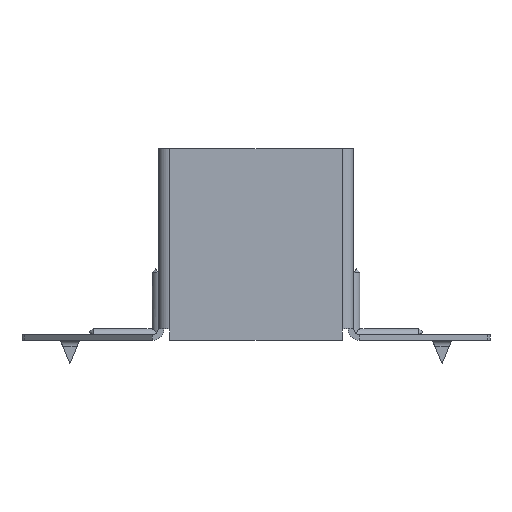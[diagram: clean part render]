
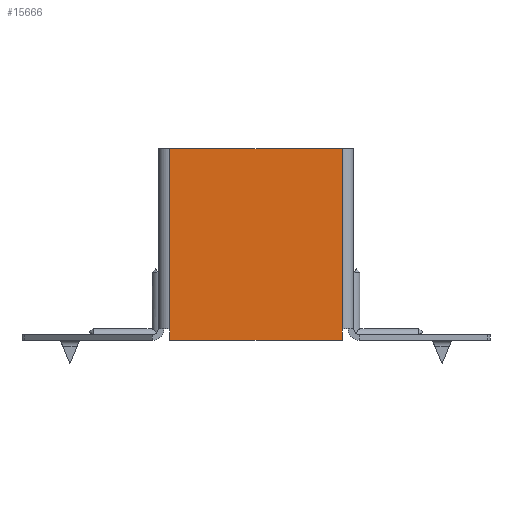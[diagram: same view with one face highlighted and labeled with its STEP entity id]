
A CAD part, front view. The second image highlights one B-rep face of the part: STEP entity #15666.
In plain terms, the highlighted planar face has unit normal (0, -1, 0).
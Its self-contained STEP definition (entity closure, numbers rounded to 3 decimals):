
#178 = ORIENTED_EDGE ( 'NONE', *, *, #7447, .T. ) ;
#2394 = DIRECTION ( 'NONE',  ( 0., 0., 1. ) ) ;
#2452 = LINE ( 'NONE', #14714, #15074 ) ;
#2469 = CARTESIAN_POINT ( 'NONE',  ( -22.5, 0., -20. ) ) ;
#3791 = CARTESIAN_POINT ( 'NONE',  ( 22.5, 0., -70. ) ) ;
#3886 = EDGE_CURVE ( 'NONE', #10113, #8751, #6535, .T. ) ;
#4151 = EDGE_CURVE ( 'NONE', #13079, #6399, #8442, .T. ) ;
#4430 = CARTESIAN_POINT ( 'NONE',  ( 22.5, 0., -67. ) ) ;
#4511 = DIRECTION ( 'NONE',  ( 0., 1., 0. ) ) ;
#4817 = VECTOR ( 'NONE', #11726, 1000. ) ;
#5257 = ORIENTED_EDGE ( 'NONE', *, *, #3886, .T. ) ;
#5950 = VECTOR ( 'NONE', #14565, 1000. ) ;
#6029 = CARTESIAN_POINT ( 'NONE',  ( 22.5, 0., -70. ) ) ;
#6399 = VERTEX_POINT ( 'NONE', #7362 ) ;
#6535 = LINE ( 'NONE', #6029, #5950 ) ;
#6555 = ORIENTED_EDGE ( 'NONE', *, *, #7038, .T. ) ;
#6836 = CARTESIAN_POINT ( 'NONE',  ( 0., 0., -20. ) ) ;
#7038 = EDGE_CURVE ( 'NONE', #8751, #13682, #13590, .T. ) ;
#7362 = CARTESIAN_POINT ( 'NONE',  ( -22.5, 0., -70. ) ) ;
#7447 = EDGE_CURVE ( 'NONE', #13682, #12333, #11681, .T. ) ;
#7688 = FACE_OUTER_BOUND ( 'NONE', #12667, .T. ) ;
#7792 = DIRECTION ( 'NONE',  ( 0., 0., -1. ) ) ;
#7972 = VECTOR ( 'NONE', #7792, 1000. ) ;
#7990 = DIRECTION ( 'NONE',  ( 0., 0., 1. ) ) ;
#8324 = EDGE_CURVE ( 'NONE', #12333, #13079, #8633, .T. ) ;
#8442 = LINE ( 'NONE', #13706, #7972 ) ;
#8633 = LINE ( 'NONE', #13473, #12059 ) ;
#8751 = VERTEX_POINT ( 'NONE', #4430 ) ;
#9445 = CARTESIAN_POINT ( 'NONE',  ( 22.5, 0., -20. ) ) ;
#9507 = CARTESIAN_POINT ( 'NONE',  ( 22.5, 0., -70. ) ) ;
#9891 = DIRECTION ( 'NONE',  ( -1., 0., 0. ) ) ;
#10113 = VERTEX_POINT ( 'NONE', #9507 ) ;
#10733 = VECTOR ( 'NONE', #2394, 1000. ) ;
#10757 = ORIENTED_EDGE ( 'NONE', *, *, #8324, .T. ) ;
#10953 = DIRECTION ( 'NONE',  ( 0., 0., -1. ) ) ;
#11266 = EDGE_CURVE ( 'NONE', #10113, #6399, #2452, .T. ) ;
#11681 = LINE ( 'NONE', #6836, #4817 ) ;
#11726 = DIRECTION ( 'NONE',  ( -1., 0., 0. ) ) ;
#12059 = VECTOR ( 'NONE', #10953, 1000. ) ;
#12333 = VERTEX_POINT ( 'NONE', #2469 ) ;
#12667 = EDGE_LOOP ( 'NONE', ( #178, #10757, #13446, #12918, #5257, #6555 ) ) ;
#12918 = ORIENTED_EDGE ( 'NONE', *, *, #11266, .F. ) ;
#13079 = VERTEX_POINT ( 'NONE', #15110 ) ;
#13117 = AXIS2_PLACEMENT_3D ( 'NONE', #14162, #4511, #7990 ) ;
#13446 = ORIENTED_EDGE ( 'NONE', *, *, #4151, .T. ) ;
#13473 = CARTESIAN_POINT ( 'NONE',  ( -22.5, 0., 0. ) ) ;
#13590 = LINE ( 'NONE', #3791, #10733 ) ;
#13682 = VERTEX_POINT ( 'NONE', #9445 ) ;
#13706 = CARTESIAN_POINT ( 'NONE',  ( -22.5, 0., 0. ) ) ;
#14112 = PLANE ( 'NONE',  #13117 ) ;
#14162 = CARTESIAN_POINT ( 'NONE',  ( 0., 0., 0. ) ) ;
#14565 = DIRECTION ( 'NONE',  ( 0., 0., 1. ) ) ;
#14714 = CARTESIAN_POINT ( 'NONE',  ( -24., 0., -70. ) ) ;
#15074 = VECTOR ( 'NONE', #9891, 1000. ) ;
#15110 = CARTESIAN_POINT ( 'NONE',  ( -22.5, 0., -67. ) ) ;
#15666 = ADVANCED_FACE ( 'NONE', ( #7688 ), #14112, .F. ) ;
